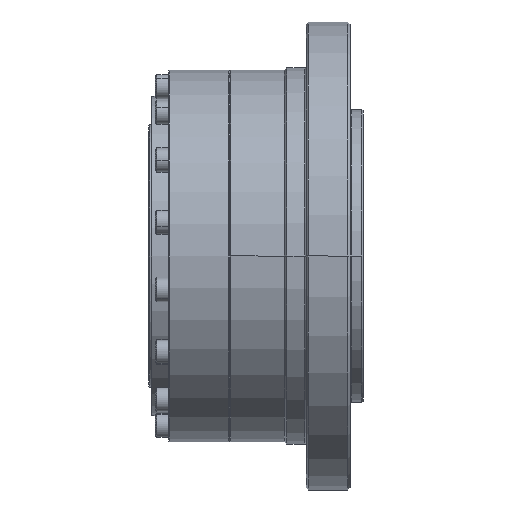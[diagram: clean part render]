
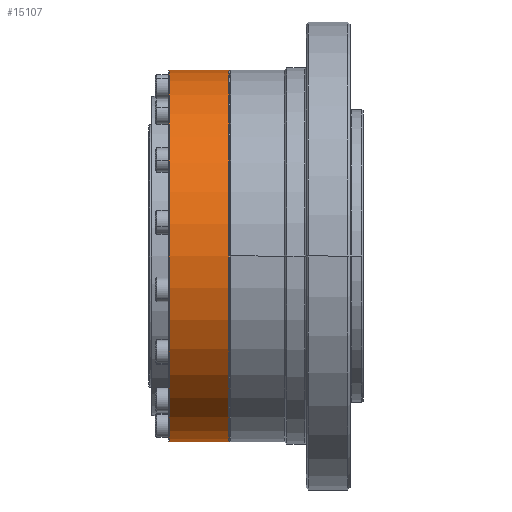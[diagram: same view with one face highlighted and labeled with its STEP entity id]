
A CAD part, front view. The second image highlights one B-rep face of the part: STEP entity #15107.
In plain terms, the highlighted cylindrical face has radius 42.5 mm (diameter 85 mm), a partial arc.
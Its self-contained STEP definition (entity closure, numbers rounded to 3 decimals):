
#392 = AXIS2_PLACEMENT_3D ( 'NONE', #4969, #14655, #6356 ) ;
#409 = ORIENTED_EDGE ( 'NONE', *, *, #14018, .F. ) ;
#469 = CIRCLE ( 'NONE', #7622, 42.5 ) ;
#834 = ORIENTED_EDGE ( 'NONE', *, *, #17098, .T. ) ;
#892 = DIRECTION ( 'NONE',  ( -1., 0., 0. ) ) ;
#2968 = VERTEX_POINT ( 'NONE', #3039 ) ;
#3039 = CARTESIAN_POINT ( 'NONE',  ( 676.742, 0., -42.5 ) ) ;
#3635 = CARTESIAN_POINT ( 'NONE',  ( 676.942, 0., 42.5 ) ) ;
#4969 = CARTESIAN_POINT ( 'NONE',  ( 663.142, 0., 0. ) ) ;
#5025 = DIRECTION ( 'NONE',  ( -1., 0., 0. ) ) ;
#5130 = EDGE_CURVE ( 'NONE', #2968, #9309, #469, .T. ) ;
#6080 = LINE ( 'NONE', #3635, #13055 ) ;
#6356 = DIRECTION ( 'NONE',  ( 0., 0., 1. ) ) ;
#6513 = CARTESIAN_POINT ( 'NONE',  ( 663.142, 0., 42.5 ) ) ;
#6712 = VECTOR ( 'NONE', #7223, 1000. ) ;
#7223 = DIRECTION ( 'NONE',  ( -1., 0., 0. ) ) ;
#7622 = AXIS2_PLACEMENT_3D ( 'NONE', #9062, #10827, #8984 ) ;
#7992 = CYLINDRICAL_SURFACE ( 'NONE', #15462, 42.5 ) ;
#8984 = DIRECTION ( 'NONE',  ( 0., 0., -1. ) ) ;
#9062 = CARTESIAN_POINT ( 'NONE',  ( 676.742, 0., 0. ) ) ;
#9099 = ORIENTED_EDGE ( 'NONE', *, *, #14418, .T. ) ;
#9309 = VERTEX_POINT ( 'NONE', #15202 ) ;
#10442 = LINE ( 'NONE', #16888, #6712 ) ;
#10628 = CARTESIAN_POINT ( 'NONE',  ( 676.942, 0., 0. ) ) ;
#10827 = DIRECTION ( 'NONE',  ( -1., 0., 0. ) ) ;
#12348 = VERTEX_POINT ( 'NONE', #13488 ) ;
#13055 = VECTOR ( 'NONE', #5025, 1000. ) ;
#13433 = CIRCLE ( 'NONE', #392, 42.5 ) ;
#13488 = CARTESIAN_POINT ( 'NONE',  ( 663.142, 0., -42.5 ) ) ;
#14018 = EDGE_CURVE ( 'NONE', #2968, #12348, #10442, .T. ) ;
#14418 = EDGE_CURVE ( 'NONE', #16103, #12348, #13433, .T. ) ;
#14463 = EDGE_LOOP ( 'NONE', ( #409, #14484, #834, #9099 ) ) ;
#14484 = ORIENTED_EDGE ( 'NONE', *, *, #5130, .T. ) ;
#14655 = DIRECTION ( 'NONE',  ( 1., 0., 0. ) ) ;
#14698 = DIRECTION ( 'NONE',  ( 0., 0., 1. ) ) ;
#15107 = ADVANCED_FACE ( 'NONE', ( #16624 ), #7992, .T. ) ;
#15202 = CARTESIAN_POINT ( 'NONE',  ( 676.742, 0., 42.5 ) ) ;
#15462 = AXIS2_PLACEMENT_3D ( 'NONE', #10628, #892, #14698 ) ;
#16103 = VERTEX_POINT ( 'NONE', #6513 ) ;
#16624 = FACE_OUTER_BOUND ( 'NONE', #14463, .T. ) ;
#16888 = CARTESIAN_POINT ( 'NONE',  ( 676.942, 0., -42.5 ) ) ;
#17098 = EDGE_CURVE ( 'NONE', #9309, #16103, #6080, .T. ) ;
